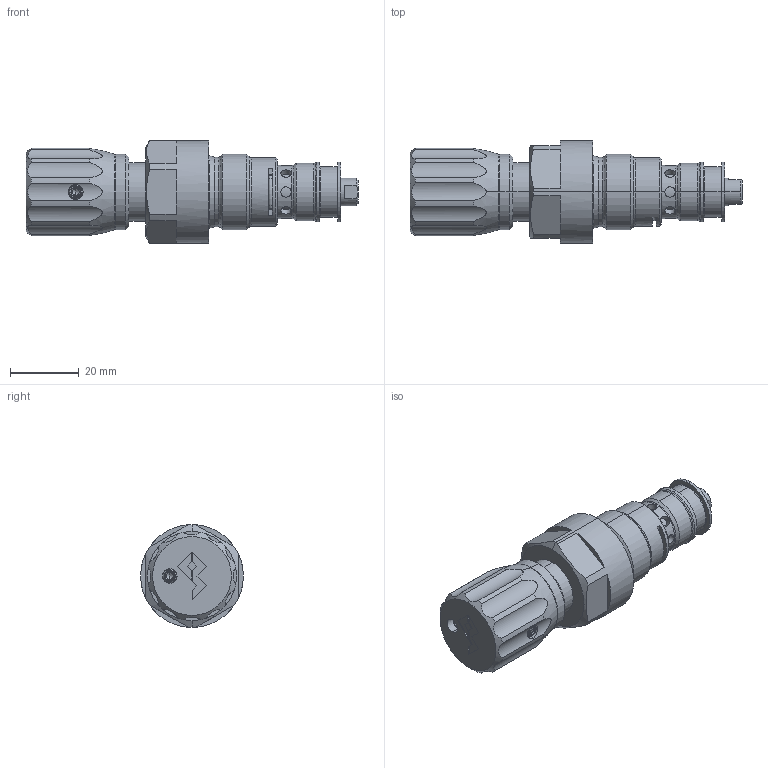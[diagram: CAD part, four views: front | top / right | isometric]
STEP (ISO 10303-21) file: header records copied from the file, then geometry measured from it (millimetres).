
FILE_DESCRIPTION (( 'STEP AP214' ), '1' );
FILE_NAME ('BADPM22.STEP', '2021-08-18T08:54:12', ( '' ), ( '' ), 'SwSTEP 2.0', 'SolidWorks 2020', '' );
FILE_SCHEMA (( 'AUTOMOTIVE_DESIGN' ));
Length unit declared in the file: millimetre
Products named in the file (1): BADPM22
Bounding box: 96.87 x 30 x 30 mm (x, y, z)
Volume: 37517 mm3; surface area: 9371.1 mm2
Topology: 1 solids, 1 shells, 252 faces, 598 edges, 365 vertices
Faces by surface type: cylinder 97, plane 91, cone 41, torus 23
Entity records: 11453 total; most frequent: CARTESIAN_POINT 2920, DIRECTION 1203, ORIENTED_EDGE 1188, EDGE_CURVE 594, AXIS2_PLACEMENT_3D 468, VERTEX_POINT 365, EDGE_LOOP 273, LINE 267
